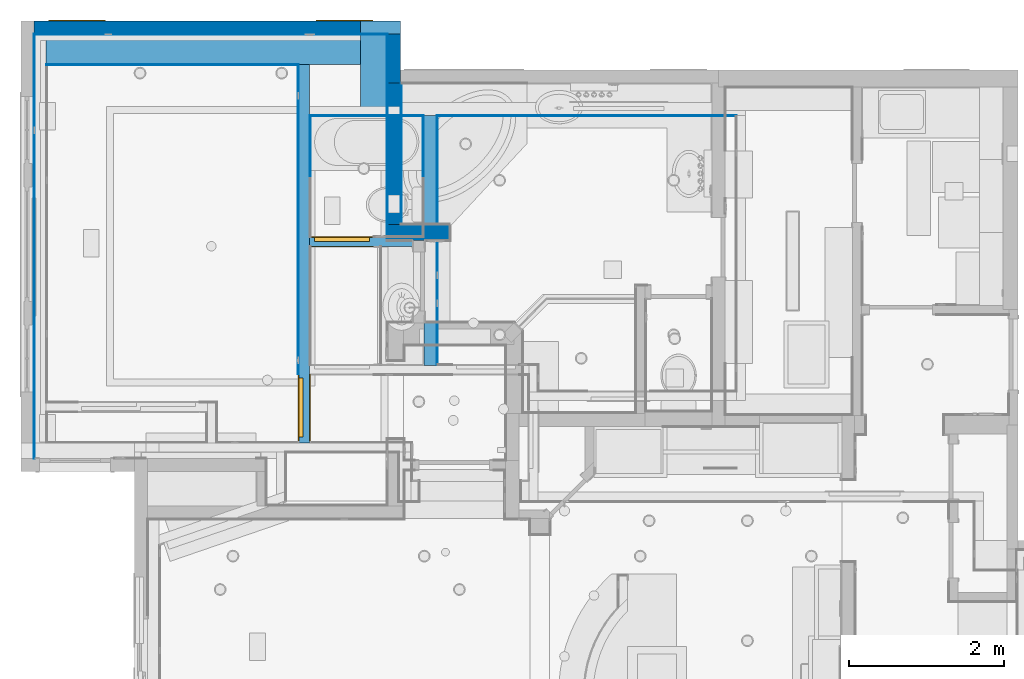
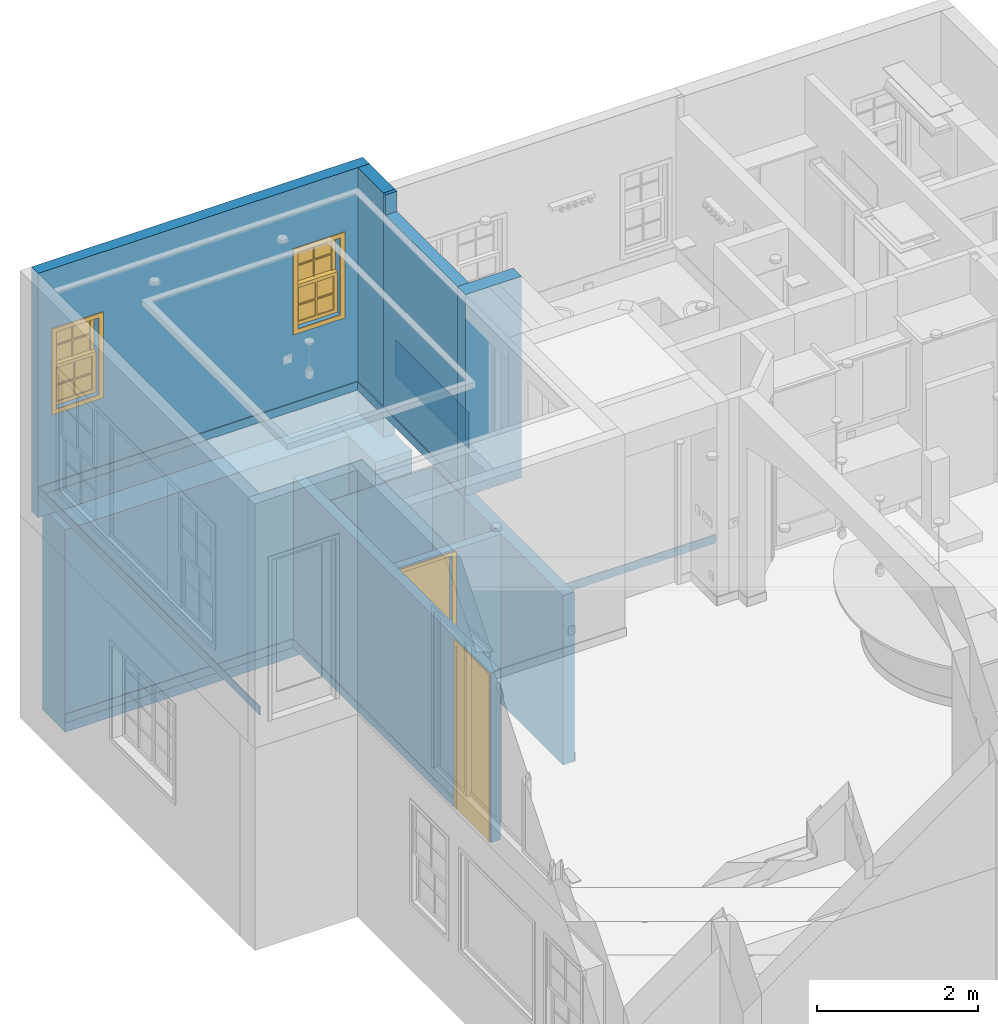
# One storey, part 11 of 81: 20 walls, 2 doors, 2 windows, 4 openings.
"""IFC2X3 building model written with IfcOpenShell, lengths in feet."""

from ifc_helpers import new_model, entity, si_unit, converted_unit, derived_unit, direction, frame, frame_2d, origin, origin_2d_with_axis, place, context, subcontext, project, spatial, polyline, rectangle, outline, extrude, clip, bounded_halfspace, source, transform, mapped, material, material_list, layer, layer_set, layer_usage, type_object, type_shapes, element, fill, save


model = new_model("IFC2X3")

# Units and contexts
model_context = context("Model", 3, precision=0.0001, world=origin(), true_north=direction((6.12303176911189e-17, 1.0)))
body_context = subcontext(model_context, "Body", "Model", "MODEL_VIEW")
ifc_project = project(units=[converted_unit("LENGTHUNIT", "FOOT", entity("IfcRatioMeasure", 0.3048), si_unit("LENGTHUNIT", "METRE"), dimensions=[1, 0, 0, 0, 0, 0, 0]), converted_unit("AREAUNIT", "SQUARE FOOT", entity("IfcRatioMeasure", 0.09290304), si_unit("AREAUNIT", "SQUARE_METRE"), dimensions=[2, 0, 0, 0, 0, 0, 0]), converted_unit("VOLUMEUNIT", "CUBIC FOOT", entity("IfcRatioMeasure", 0.028316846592), si_unit("VOLUMEUNIT", "CUBIC_METRE"), dimensions=[3, 0, 0, 0, 0, 0, 0]), converted_unit("PLANEANGLEUNIT", "DEGREE", entity("IfcRatioMeasure", 0.0174532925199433), si_unit("PLANEANGLEUNIT", "RADIAN"), dimensions=[0, 0, 0, 0, 0, 0, 0]), si_unit("MASSUNIT", "GRAM", prefix="KILO"), derived_unit("MASSDENSITYUNIT", [(si_unit("MASSUNIT", "GRAM", prefix="KILO"), 1), (si_unit("LENGTHUNIT", "METRE"), -3)]), derived_unit("MOMENTOFINERTIAUNIT", [(si_unit("LENGTHUNIT", "METRE"), 4)]), si_unit("TIMEUNIT", "SECOND"), si_unit("FREQUENCYUNIT", "HERTZ"), si_unit("THERMODYNAMICTEMPERATUREUNIT", "DEGREE_CELSIUS"), derived_unit("THERMALTRANSMITTANCEUNIT", [(si_unit("MASSUNIT", "GRAM", prefix="KILO"), 1), (si_unit("THERMODYNAMICTEMPERATUREUNIT", "KELVIN"), -1), (si_unit("TIMEUNIT", "SECOND"), -3)]), derived_unit("VOLUMETRICFLOWRATEUNIT", [(si_unit("LENGTHUNIT", "METRE"), 3), (si_unit("TIMEUNIT", "SECOND"), -1)]), si_unit("ELECTRICCURRENTUNIT", "AMPERE"), si_unit("ELECTRICVOLTAGEUNIT", "VOLT"), si_unit("POWERUNIT", "WATT"), si_unit("FORCEUNIT", "NEWTON"), si_unit("ILLUMINANCEUNIT", "LUX"), si_unit("LUMINOUSFLUXUNIT", "LUMEN"), si_unit("LUMINOUSINTENSITYUNIT", "CANDELA"), derived_unit("USERDEFINED", [(si_unit("MASSUNIT", "GRAM", prefix="KILO"), -1), (si_unit("LENGTHUNIT", "METRE"), -2), (si_unit("TIMEUNIT", "SECOND"), 3), (si_unit("LUMINOUSFLUXUNIT", "LUMEN"), 1)]), derived_unit("LINEARVELOCITYUNIT", [(si_unit("LENGTHUNIT", "METRE"), 1), (si_unit("TIMEUNIT", "SECOND"), -1)]), si_unit("PRESSUREUNIT", "PASCAL"), derived_unit("USERDEFINED", [(si_unit("LENGTHUNIT", "METRE"), -2), (si_unit("MASSUNIT", "GRAM", prefix="KILO"), 1), (si_unit("TIMEUNIT", "SECOND"), -2)]), derived_unit("LINEARFORCEUNIT", [(si_unit("MASSUNIT", "GRAM", prefix="KILO"), 1), (si_unit("LENGTHUNIT", "METRE"), 1), (si_unit("TIMEUNIT", "SECOND"), -2), (si_unit("LENGTHUNIT", "METRE"), -1)]), derived_unit("PLANARFORCEUNIT", [(si_unit("MASSUNIT", "GRAM", prefix="KILO"), 1), (si_unit("LENGTHUNIT", "METRE"), 1), (si_unit("TIMEUNIT", "SECOND"), -2), (si_unit("LENGTHUNIT", "METRE"), -2)])], contexts=[model_context])

# Site, building, storey
site_placement = place(None, origin())
site = spatial("IfcSite", under=ifc_project, at=site_placement, Name="Default", CompositionType="ELEMENT")
building_placement = place(site_placement, origin())
building = spatial("IfcBuilding", under=site, at=building_placement, CompositionType="ELEMENT")
storey_placement = place(building_placement, origin())
storey = spatial("IfcBuildingStorey", under=building, at=storey_placement, Name="First floor", CompositionType="ELEMENT", Elevation=0.0)

# Wall, openings, windows
ifc_material_1 = material(Name="Default New Material")
ifc_layer_1 = layer(ifc_material_1, 0.541666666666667)
ifc_layer_set_1 = layer_set([ifc_layer_1], Name="Basic Wall:Wall_6.5\"")
ifc_layer_usage_1 = layer_usage(ifc_layer_set_1, "AXIS2", "NEGATIVE", 0.270833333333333)
wall_type_1 = type_object("IfcWallType", Name="Basic Wall:Wall_6.5\"", PredefinedType="STANDARD", material=ifc_layer_set_1)
wall_1_placement = place(storey_placement, frame((-21.3125, 49.8541666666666, 9.54166666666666)))
wall_1 = element("IfcWallStandardCase", 1, at=wall_1_placement, inside=storey, type_object=wall_type_1, material=ifc_layer_usage_1, Name="Basic Wall:Wall_6.5\"", ObjectType="Basic Wall:Wall_6.5\"", context=body_context, shape_type="SweptSolid", body=[
    extrude(rectangle(XDim=15.5416666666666, YDim=0.541666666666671, at=frame_2d((7.77083333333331, 8.88178419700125e-16), x_axis=(-1.0, 0.0))), origin(), (0.0, 0.0, 1.0), 12.125),
])
opening_1_placement = place(wall_1_placement, frame((12.1666666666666, -0.270833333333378, 5.125)))
opening_1 = element("IfcOpeningElement", 2, at=opening_1_placement, cuts=wall_1, Name="Window_4:2'-0\" X 3'-10\":1", ObjectType="Opening", context=body_context, shape_type="SweptSolid", body=[
    extrude(rectangle(XDim=3.83333333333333, YDim=2.0, at=frame_2d((1.91666666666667, 0.999999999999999), x_axis=(-1.0, 0.0))), frame((0.0, 0.0, 0.0), z_axis=(0.0, 1.0, 0.0), x_axis=(0.0, 0.0, 1.0)), (0.0, 0.0, 1.0), 0.541666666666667),
])
opening_2_placement = place(wall_1_placement, frame((0.833333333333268, -0.270833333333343, 5.125)))
opening_2 = element("IfcOpeningElement", 3, at=opening_2_placement, cuts=wall_1, Name="Window_4:2'-0\" X 3'-10\":1", ObjectType="Opening", context=body_context, shape_type="SweptSolid", body=[
    extrude(rectangle(XDim=3.83333333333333, YDim=2.0, at=frame_2d((1.91666666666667, 1.0), x_axis=(-1.0, 0.0))), frame((0.0, 0.0, 0.0), z_axis=(0.0, 1.0, 0.0), x_axis=(0.0, 0.0, 1.0)), (0.0, 0.0, 1.0), 0.541666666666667),
])
ifc_material_2 = material(Name="Glass")
ifc_material_list_1 = material_list([ifc_material_2, ifc_material_1])
ifc_material_3 = material(Name="Trim")
ifc_material_4 = material(Name="Sash")
ifc_material_list_2 = material_list([ifc_material_3, ifc_material_3, ifc_material_2, ifc_material_4])
window_style = type_object("IfcWindowStyle", Name="Window_4:2'-0\" X 3'-10\"", ConstructionType="NOTDEFINED", OperationType="NOTDEFINED", ParameterTakesPrecedence=False, Sizeable=False, material=ifc_material_list_2)
shared_shape_1 = source(origin(), body_context, "Body", "SweptSolid", [
    extrude(rectangle(XDim=0.80859375, YDim=0.0435871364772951, at=origin_2d_with_axis()), frame((0.570963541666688, 0.459293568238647, 2.8515625)), (0.0, 0.0, 1.0), 0.815104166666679),
    extrude(rectangle(XDim=0.808593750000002, YDim=0.0435871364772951, at=frame_2d((5.55111512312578e-17, 0.0), x_axis=(1.0, 0.0))), frame((1.42903645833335, 0.459293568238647, 2.8515625)), (0.0, 0.0, 1.0), 0.815104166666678),
    extrude(rectangle(XDim=0.80859375, YDim=0.0435871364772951, at=origin_2d_with_axis()), frame((0.570963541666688, 0.459293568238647, 2.01041666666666)), (0.0, 0.0, 1.0), 0.791666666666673),
    extrude(rectangle(XDim=0.808593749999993, YDim=0.0435871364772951, at=origin_2d_with_axis()), frame((1.42903645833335, 0.459293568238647, 2.01041666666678)), (0.0, 0.0, 1.0), 0.791666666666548),
    extrude(outline(polyline([(-1.0, -0.994791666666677), (1.0, -0.994791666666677), (1.0, 0.994791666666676), (-1.0, 0.994791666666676), (-1.0, -0.994791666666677)]), holes=[polyline([(0.0247395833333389, -0.828125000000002), (0.0247395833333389, -0.0130208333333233), (0.833333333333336, -0.0130208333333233), (0.833333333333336, -0.828125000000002), (0.0247395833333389, -0.828125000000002)]), polyline([(0.0247395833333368, 0.828125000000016), (0.833333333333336, 0.828125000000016), (0.833333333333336, 0.0364583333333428), (0.0247395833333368, 0.0364583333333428), (0.0247395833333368, 0.828125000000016)]), polyline([(-0.833333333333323, -0.0130208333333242), (-0.0247395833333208, -0.0130208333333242), (-0.0247395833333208, -0.828125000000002), (-0.833333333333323, -0.828125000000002), (-0.833333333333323, -0.0130208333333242)]), polyline([(-0.833333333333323, 0.828124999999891), (-0.0247395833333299, 0.828124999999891), (-0.0247395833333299, 0.0364583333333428), (-0.833333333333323, 0.0364583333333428), (-0.833333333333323, 0.828124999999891)])]), frame((1.0, 0.541666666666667, 2.83854166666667), z_axis=(0.0, -1.0, 0.0), x_axis=(-1.0, 0.0, 0.0)), (0.0, 0.0, 1.0), 0.166666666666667),
    extrude(rectangle(XDim=0.808593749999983, YDim=0.0416666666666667, at=origin_2d_with_axis()), frame((1.42903645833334, 0.291666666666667, 0.166666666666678), z_axis=(0.0, 0.0, 1.0), x_axis=(-1.0, 0.0, 0.0)), (0.0, 0.0, 1.0), 0.791666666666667),
    extrude(rectangle(XDim=0.80859374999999, YDim=0.0416666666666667, at=origin_2d_with_axis()), frame((0.570963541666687, 0.291666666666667, 1.00781250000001), z_axis=(0.0, 0.0, 1.0), x_axis=(-1.0, 0.0, 0.0)), (0.0, 0.0, 1.0), 0.835937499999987),
    extrude(rectangle(XDim=0.80859374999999, YDim=0.0416666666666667, at=origin_2d_with_axis()), frame((0.570963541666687, 0.291666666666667, 0.166666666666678), z_axis=(0.0, 0.0, 1.0), x_axis=(-1.0, 0.0, 0.0)), (0.0, 0.0, 1.0), 0.791666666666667),
    extrude(rectangle(XDim=0.808593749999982, YDim=0.0416666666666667, at=origin_2d_with_axis()), frame((1.42903645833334, 0.291666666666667, 1.00781250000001), z_axis=(0.0, 0.0, 1.0), x_axis=(-1.0, 0.0, 0.0)), (0.0, 0.0, 1.0), 0.835937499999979),
    extrude(outline(polyline([(-1.0, -1.00520833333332), (1.0, -1.00520833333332), (1.0, 1.00520833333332), (-1.0, 1.00520833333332), (-1.0, -1.00520833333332)]), holes=[polyline([(-0.833333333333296, -0.0026041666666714), (-0.0247395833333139, -0.0026041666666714), (-0.0247395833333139, -0.83854166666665), (-0.833333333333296, -0.83854166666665), (-0.833333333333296, -0.0026041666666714)]), polyline([(0.0247395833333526, 0.838541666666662), (0.833333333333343, 0.838541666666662), (0.833333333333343, 0.0468749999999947), (0.0247395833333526, 0.0468749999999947), (0.0247395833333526, 0.838541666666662)]), polyline([(-0.833333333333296, 0.838541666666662), (-0.0247395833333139, 0.838541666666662), (-0.0247395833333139, 0.0468749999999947), (-0.833333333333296, 0.0468749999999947), (-0.833333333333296, 0.838541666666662)]), polyline([(0.0247395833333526, -0.83854166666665), (0.0247395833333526, -0.00260416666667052), (0.833333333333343, -0.00260416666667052), (0.833333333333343, -0.83854166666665), (0.0247395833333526, -0.83854166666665)])]), frame((1.0, 0.375, 1.00520833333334), z_axis=(0.0, -1.0, 0.0), x_axis=(-1.0, 0.0, 0.0)), (0.0, 0.0, 1.0), 0.166666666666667),
    extrude(outline(polyline([(-1.20833333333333, -2.12500000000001), (1.20833333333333, -2.12500000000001), (1.20833333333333, 2.12500000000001), (-1.20833333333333, 2.12500000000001), (-1.20833333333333, -2.12500000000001)]), holes=[polyline([(-1.0, -1.91666666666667), (-1.0, 1.91666666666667), (1.0, 1.91666666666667), (1.0, -1.91666666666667), (-1.0, -1.91666666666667)])]), frame((1.0, 0.0, 1.91666666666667), z_axis=(0.0, -1.0, 0.0), x_axis=(1.0, 0.0, 0.0)), (0.0, 0.0, 1.0), 0.0416666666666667),
    extrude(outline(polyline([(-1.20833333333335, -2.125), (1.20833333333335, -2.125), (1.20833333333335, 2.125), (-1.20833333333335, 2.125), (-1.20833333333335, -2.125)]), holes=[polyline([(-1.0, -1.91666666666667), (-1.0, 1.91666666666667), (1.0, 1.91666666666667), (1.0, -1.91666666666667), (-1.0, -1.91666666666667)])]), frame((1.0, 0.583333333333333, 1.91666666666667), z_axis=(0.0, -1.0, 0.0), x_axis=(1.0, 0.0, 0.0)), (0.0, 0.0, 1.0), 0.0416666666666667),
])
type_shapes(window_style, [shared_shape_1])
window_1_placement = place(opening_1_placement, origin())
window_1 = element("IfcWindow", 4, at=window_1_placement, inside=storey, type_object=window_style, material=ifc_material_list_1, Name="Window_4:2'-0\" X 3'-10\"", ObjectType="Window_4:2'-0\" X 3'-10\"", OverallHeight=3.83333333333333, OverallWidth=2.0, context=body_context, shape_type="MappedRepresentation", body=[
    mapped(shared_shape_1, transform((0.0, 0.0, 0.0), scale=1.0)),
])
fill(opening_1, window_1)
ifc_material_list_3 = material_list([ifc_material_2, ifc_material_1])
window_2_placement = place(opening_2_placement, origin())
window_2 = element("IfcWindow", 5, at=window_2_placement, inside=storey, type_object=window_style, material=ifc_material_list_3, Name="Window_4:2'-0\" X 3'-10\"", ObjectType="Window_4:2'-0\" X 3'-10\"", OverallHeight=3.83333333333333, OverallWidth=2.0, context=body_context, shape_type="MappedRepresentation", body=[
    mapped(shared_shape_1, transform((0.0, 0.0, 0.0), scale=1.0)),
])
fill(opening_2, window_2)

# Walls
ifc_layer_usage_2 = layer_usage(ifc_layer_set_1, "AXIS2", "NEGATIVE", 0.270833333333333)
wall_2_placement = place(storey_placement, frame((-6.04166666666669, 49.5833333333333, 9.54166666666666), z_axis=(0.0, 0.0, 1.0), x_axis=(0.0, -1.0, 0.0)))
element("IfcWallStandardCase", 6, at=wall_2_placement, inside=storey, type_object=wall_type_1, material=ifc_layer_usage_2, Name="Basic Wall:Wall_6.5\"", ObjectType="Basic Wall:Wall_6.5\"", context=body_context, shape_type="SweptSolid", body=[
    extrude(rectangle(XDim=2.08367849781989, YDim=0.541666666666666, at=frame_2d((1.04183924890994, 0.0), x_axis=(-1.0, 0.0))), origin(), (0.0, 0.0, 1.0), 12.125),
])
ifc_layer_usage_3 = layer_usage(ifc_layer_set_1, "AXIS2", "POSITIVE", -0.270833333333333)
wall_3_placement = place(storey_placement, frame((-6.04166666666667, 41.4996548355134, 10.6666666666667), z_axis=(0.0, 0.0, 1.0), x_axis=(0.0, 1.0, 0.0)))
element("IfcWallStandardCase", 7, at=wall_3_placement, inside=storey, type_object=wall_type_1, material=ifc_layer_usage_3, Name="Basic Wall:Wall_6.5\"", ObjectType="Basic Wall:Wall_6.5\"", context=body_context, shape_type="Clipping", body=[
    clip(clip(extrude(rectangle(XDim=6.00000000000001, YDim=0.541666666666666, at=frame_2d((3.0, 0.0), x_axis=(-1.0, 0.0))), origin(), (0.0, 0.0, 1.0), 11.0), bounded_halfspace(frame((5.83333333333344, -0.270833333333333, 10.0), z_axis=(0.0, 0.0, -1.0), x_axis=(0.0, -1.0, 0.0)), True, frame((5.83333333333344, -0.270833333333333, 10.0), z_axis=(0.0, 0.0, -1.0), x_axis=(0.0, -1.0, 0.0)), polyline([(0.0, 0.0), (0.0, 5.83333333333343), (-0.541666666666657, 5.83333333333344), (-0.541666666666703, 0.0), (0.0, 0.0)]))), bounded_halfspace(frame((5.83333333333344, 0.27083333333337, 10.0), z_axis=(1.0, 0.0, 0.0), x_axis=(0.0, 0.0, -1.0)), True, frame((5.83333333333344, 0.27083333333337, 10.0), z_axis=(1.0, 0.0, 0.0), x_axis=(0.0, 0.0, -1.0)), polyline([(0.0, 0.0), (-1.0, 0.0), (-1.0, -0.541666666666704), (0.0, -0.541666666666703), (0.0, 0.0)]))),
])
ifc_layer_usage_4 = layer_usage(ifc_layer_set_1, "AXIS2", "POSITIVE", -0.270833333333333)
wall_4_placement = place(storey_placement, frame((-4.52083333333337, 35.5416666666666, 0.0), z_axis=(0.0, 0.0, 1.0), x_axis=(0.0, 1.0, 0.0)))
element("IfcWallStandardCase", 8, at=wall_4_placement, inside=storey, type_object=wall_type_1, material=ifc_layer_usage_4, Name="Basic Wall:Wall_6.5\"", ObjectType="Basic Wall:Wall_6.5\"", context=body_context, shape_type="SweptSolid", body=[
    extrude(rectangle(XDim=10.5833333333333, YDim=0.541666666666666, at=frame_2d((5.29166666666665, 0.0), x_axis=(-1.0, 0.0))), origin(), (0.0, 0.0, 1.0), 8.41666666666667),
])
ifc_layer_2 = layer(ifc_material_1, 0.666666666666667)
ifc_layer_set_2 = layer_set([ifc_layer_2], Name="Basic Wall:Wall_8\"")
ifc_layer_usage_5 = layer_usage(ifc_layer_set_2, "AXIS2", "POSITIVE", -0.333333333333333)
wall_type_2 = type_object("IfcWallType", Name="Basic Wall:Wall_8\"", PredefinedType="STANDARD", material=ifc_layer_set_2)
wall_5_placement = place(storey_placement, frame((-3.6875, 41.16632150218, 10.6666666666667), z_axis=(0.0, 0.0, 1.0), x_axis=(-1.0, 0.0, 0.0)))
element("IfcWallStandardCase", 9, at=wall_5_placement, inside=storey, type_object=wall_type_2, material=ifc_layer_usage_5, Name="Basic Wall:Wall_8\"", ObjectType="Basic Wall:Wall_8\"", context=body_context, shape_type="SweptSolid", body=[
    extrude(rectangle(XDim=2.62500000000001, YDim=0.666666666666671, at=frame_2d((1.3125, 0.0), x_axis=(-1.0, 0.0))), origin(), (0.0, 0.0, 1.0), 10.0),
])

# Wall, opening, door
ifc_layer_3 = layer(ifc_material_1, 0.375)
ifc_layer_set_3 = layer_set([ifc_layer_3], Name="Basic Wall:Wall_4.5\"")
ifc_layer_usage_6 = layer_usage(ifc_layer_set_3, "AXIS2", "POSITIVE", -0.1875)
wall_type_3 = type_object("IfcWallType", Name="Basic Wall:Wall_4.5\"", PredefinedType="STANDARD", material=ifc_layer_set_3)
wall_6_placement = place(storey_placement, frame((-4.79166666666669, 40.7708333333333, 0.0), z_axis=(0.0, 0.0, 1.0), x_axis=(-1.0, 0.0, 0.0)))
wall_6 = element("IfcWallStandardCase", 10, at=wall_6_placement, inside=storey, type_object=wall_type_3, material=ifc_layer_usage_6, Name="Basic Wall:Wall_4.5\"", ObjectType="Basic Wall:Wall_4.5\"", context=body_context, shape_type="SweptSolid", body=[
    extrude(rectangle(XDim=4.83333333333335, YDim=0.375, at=frame_2d((2.41666666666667, 0.0), x_axis=(-1.0, 0.0))), origin(), (0.0, 0.0, 1.0), 8.41666666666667),
])
opening_3_placement = place(wall_6_placement, frame((4.62499999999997, 0.187499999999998, 0.0)))
opening_3 = element("IfcOpeningElement", 11, at=opening_3_placement, cuts=wall_6, Name="Door_1:2'-4\" X 8'-2\":1", ObjectType="Opening", context=body_context, shape_type="SweptSolid", body=[
    extrude(rectangle(XDim=2.33333333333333, YDim=8.16666666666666, at=frame_2d((4.08333333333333, 1.16666666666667), x_axis=(0.0, -1.0))), frame((0.0, 0.0, 0.0), z_axis=(0.0, -1.0, 0.0), x_axis=(0.0, 0.0, 1.0)), (0.0, 0.0, 1.0), 0.375),
])
ifc_material_list_4 = material_list([ifc_material_1, ifc_material_1])
door_style_1 = type_object("IfcDoorStyle", Name="Door_1:2'-4\" X 8'-2\"", ConstructionType="NOTDEFINED", OperationType="SINGLE_SWING_LEFT", ParameterTakesPrecedence=False, Sizeable=False, material=ifc_material_list_4)
shared_shape_2 = source(origin(), body_context, "Body", "SweptSolid", [
    extrude(outline(polyline([(-1.33333333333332, -4.20833333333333), (1.3333333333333, -4.20833333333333), (1.3333333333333, 4.125), (1.16666666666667, 4.125), (1.16666666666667, -4.04166666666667), (-1.16666666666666, -4.04166666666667), (-1.16666666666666, 4.125), (-1.33333333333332, 4.125), (-1.33333333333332, -4.20833333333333)])), frame((1.16666666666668, 0.416666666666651, 4.125), z_axis=(0.0, -1.0, 0.0), x_axis=(-1.0, 0.0, 0.0)), (0.0, 0.0, 1.0), 0.0416666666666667),
    extrude(outline(polyline([(-4.20833333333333, -1.33333333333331), (4.125, -1.33333333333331), (4.125, -1.16666666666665), (-4.04166666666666, -1.16666666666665), (-4.04166666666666, 1.16666666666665), (4.125, 1.16666666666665), (4.125, 1.33333333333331), (-4.20833333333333, 1.33333333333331), (-4.20833333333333, -1.33333333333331)])), frame((1.16666666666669, 0.0, 4.125), z_axis=(0.0, -1.0, 0.0), x_axis=(0.0, 0.0, -1.0)), (0.0, 0.0, 1.0), 0.0416666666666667),
    extrude(rectangle(XDim=2.33333333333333, YDim=0.166666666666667, at=origin_2d_with_axis()), frame((1.16666666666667, 0.291666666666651, 0.0)), (0.0, 0.0, 1.0), 8.16666666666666),
])
type_shapes(door_style_1, [shared_shape_2])
door_1_placement = place(opening_3_placement, frame((0.0, 0.0, 0.0), z_axis=(0.0, 0.0, 1.0), x_axis=(-1.0, 0.0, 0.0)))
door_1 = element("IfcDoor", 12, at=door_1_placement, inside=storey, type_object=door_style_1, material=ifc_material_1, Name="Door_1:2'-4\" X 8'-2\"", ObjectType="Door_1:2'-4\" X 8'-2\"", OverallHeight=8.16666666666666, OverallWidth=2.33333333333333, context=body_context, shape_type="MappedRepresentation", body=[
    mapped(shared_shape_2, transform((0.0, 0.0, 0.0), scale=1.0)),
])
fill(opening_3, door_1)

ifc_layer_4 = layer(ifc_material_1, 0.458333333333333)
ifc_layer_set_4 = layer_set([ifc_layer_4], Name="Basic Wall:Wall_5.5\"")
ifc_layer_usage_7 = layer_usage(ifc_layer_set_4, "AXIS2", "NEGATIVE", 0.229166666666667)
wall_type_4 = type_object("IfcWallType", Name="Basic Wall:Wall_5.5\"", PredefinedType="STANDARD", material=ifc_layer_set_4)
wall_7_placement = place(storey_placement, frame((-9.8541666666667, 48.2916666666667, 0.0), z_axis=(0.0, 0.0, 1.0), x_axis=(0.0, -1.0, 0.0)))
wall_7 = element("IfcWallStandardCase", 13, at=wall_7_placement, inside=storey, type_object=wall_type_4, material=ifc_layer_usage_7, Name="Basic Wall:Wall_5.5\"", ObjectType="Basic Wall:Wall_5.5\"", context=body_context, shape_type="SweptSolid", body=[
    extrude(rectangle(XDim=16.0416666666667, YDim=0.458333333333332, at=frame_2d((8.02083333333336, -9.71445146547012e-17), x_axis=(-1.0, 0.0))), origin(), (0.0, 0.0, 1.0), 8.41666666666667),
])
opening_4_placement = place(wall_7_placement, frame((15.7916666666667, 0.229166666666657, 0.0)))
opening_4 = element("IfcOpeningElement", 14, at=opening_4_placement, cuts=wall_7, Name="Door_1:2'-6\" X 8'-2\":1", ObjectType="Opening", context=body_context, shape_type="SweptSolid", body=[
    extrude(rectangle(XDim=2.5, YDim=8.16666666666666, at=frame_2d((4.08333333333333, 1.25), x_axis=(0.0, -1.0))), frame((0.0, 0.0, 0.0), z_axis=(0.0, -1.0, 0.0), x_axis=(0.0, 0.0, 1.0)), (0.0, 0.0, 1.0), 0.458333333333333),
])
ifc_material_list_5 = material_list([ifc_material_1, ifc_material_1])
door_style_2 = type_object("IfcDoorStyle", Name="Door_1:2'-6\" X 8'-2\"", ConstructionType="NOTDEFINED", OperationType="SINGLE_SWING_LEFT", ParameterTakesPrecedence=False, Sizeable=False, material=ifc_material_list_5)
shared_shape_3 = source(origin(), body_context, "Body", "SweptSolid", [
    extrude(outline(polyline([(-1.41666666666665, -4.20833333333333), (1.41666666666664, -4.20833333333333), (1.41666666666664, 4.125), (1.25000000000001, 4.125), (1.25000000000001, -4.04166666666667), (-1.24999999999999, -4.04166666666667), (-1.24999999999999, 4.125), (-1.41666666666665, 4.125), (-1.41666666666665, -4.20833333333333)])), frame((1.25000000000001, 0.499999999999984, 4.125), z_axis=(0.0, -1.0, 0.0), x_axis=(-1.0, 0.0, 0.0)), (0.0, 0.0, 1.0), 0.0416666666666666),
    extrude(outline(polyline([(-4.20833333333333, -1.41666666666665), (4.125, -1.41666666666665), (4.125, -1.24999999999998), (-4.04166666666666, -1.24999999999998), (-4.04166666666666, 1.24999999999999), (4.125, 1.24999999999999), (4.125, 1.41666666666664), (-4.20833333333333, 1.41666666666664), (-4.20833333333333, -1.41666666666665)])), frame((1.25000000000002, 0.0, 4.125), z_axis=(0.0, -1.0, 0.0), x_axis=(0.0, 0.0, -1.0)), (0.0, 0.0, 1.0), 0.0416666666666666),
    extrude(rectangle(XDim=2.5, YDim=0.166666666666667, at=origin_2d_with_axis()), frame((1.25, 0.374999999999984, 0.0)), (0.0, 0.0, 1.0), 8.16666666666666),
])
type_shapes(door_style_2, [shared_shape_3])
door_2_placement = place(opening_4_placement, frame((0.0, 0.0, 0.0), z_axis=(0.0, 0.0, 1.0), x_axis=(-1.0, 0.0, 0.0)))
door_2 = element("IfcDoor", 15, at=door_2_placement, inside=storey, type_object=door_style_2, material=ifc_material_1, Name="Door_1:2'-6\" X 8'-2\"", ObjectType="Door_1:2'-6\" X 8'-2\"", OverallHeight=8.16666666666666, OverallWidth=2.5, context=body_context, shape_type="MappedRepresentation", body=[
    mapped(shared_shape_3, transform((0.0, 0.0, 0.0), scale=1.0)),
])
fill(opening_4, door_2)

# Walls
ifc_layer_5 = layer(ifc_material_1, 1.83333333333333)
ifc_layer_set_5 = layer_set([ifc_layer_5], Name="Basic Wall:Wall_1' 10\"")
ifc_layer_usage_8 = layer_usage(ifc_layer_set_5, "AXIS2", "POSITIVE", -0.916666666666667)
wall_type_5 = type_object("IfcWallType", Name="Basic Wall:Wall_1' 10\"", PredefinedType="STANDARD", material=ifc_layer_set_5)
wall_8_placement = place(storey_placement, frame((-7.47916666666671, 49.2083333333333, -0.5), z_axis=(0.0, 0.0, 1.0), x_axis=(-1.0, 0.0, 0.0)))
element("IfcWallStandardCase", 16, at=wall_8_placement, inside=storey, type_object=wall_type_5, material=ifc_layer_usage_8, Name="Basic Wall:Wall_1' 10\"", ObjectType="Basic Wall:Wall_1' 10\"", context=body_context, shape_type="SweptSolid", body=[
    extrude(rectangle(XDim=13.3125, YDim=1.83333333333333, at=frame_2d((6.65624999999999, 0.0), x_axis=(-1.0, 0.0))), origin(), (0.0, 0.0, 1.0), 10.0416666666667),
])
ifc_layer_6 = layer(ifc_material_1, 1.70833333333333)
ifc_layer_set_6 = layer_set([ifc_layer_6], Name="Basic Wall:Wall_1' 8 1/2\"")
ifc_layer_usage_9 = layer_usage(ifc_layer_set_6, "AXIS2", "NEGATIVE", 0.854166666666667)
wall_type_6 = type_object("IfcWallType", Name="Basic Wall:Wall_1' 8 1/2\"", PredefinedType="STANDARD", material=ifc_layer_set_6)
wall_9_placement = place(storey_placement, frame((-6.62500000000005, 50.125, -0.5), z_axis=(0.0, 0.0, 1.0), x_axis=(0.0, -1.0, 0.0)))
element("IfcWallStandardCase", 17, at=wall_9_placement, inside=storey, type_object=wall_type_6, material=ifc_layer_usage_9, Name="Basic Wall:Wall_1' 8 1/2\"", ObjectType="Basic Wall:Wall_1' 8 1/2\"", context=body_context, shape_type="SweptSolid", body=[
    extrude(rectangle(XDim=4.00000000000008, YDim=1.70833333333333, at=frame_2d((2.00000000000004, -3.33066907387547e-16), x_axis=(-1.0, 0.0))), origin(), (0.0, 0.0, 1.0), 10.0416666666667),
])
ifc_layer_7 = layer(ifc_material_1, 0.0416666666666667)
ifc_layer_set_7 = layer_set([ifc_layer_7], Name="Basic Wall:Wall Border_T1")
ifc_layer_usage_10 = layer_usage(ifc_layer_set_7, "AXIS2", "NEGATIVE", 0.0208333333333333)
wall_type_7 = type_object("IfcWallType", Name="Basic Wall:Wall Border_T1", PredefinedType="STANDARD", material=ifc_layer_set_7)
wall_10_placement = place(storey_placement, frame((-10.125, 48.2708333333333, 0.0), z_axis=(0.0, 0.0, 1.0), x_axis=(-1.0, 0.0, 0.0)))
element("IfcWallStandardCase", 18, at=wall_10_placement, inside=storey, type_object=wall_type_7, material=ifc_layer_usage_10, Name="Basic Wall:Wall Border_T1", ObjectType="Basic Wall:Wall Border_T1", context=body_context, shape_type="SweptSolid", body=[
    extrude(rectangle(XDim=10.6666666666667, YDim=0.0416666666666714, at=frame_2d((5.33333333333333, -6.93889390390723e-17), x_axis=(-1.0, 0.0))), origin(), (0.0, 0.0, 1.0), 0.416666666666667),
])
ifc_layer_usage_11 = layer_usage(ifc_layer_set_7, "AXIS2", "POSITIVE", -0.0208333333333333)
wall_11_placement = place(storey_placement, frame((-10.1041666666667, 48.2916666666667, 0.0), z_axis=(0.0, 0.0, 1.0), x_axis=(0.0, -1.0, 0.0)))
element("IfcWallStandardCase", 19, at=wall_11_placement, inside=storey, type_object=wall_type_7, material=ifc_layer_usage_11, Name="Basic Wall:Wall Border_T1", ObjectType="Basic Wall:Wall Border_T1", context=body_context, shape_type="SweptSolid", body=[
    extrude(rectangle(XDim=13.125, YDim=0.0416666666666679, at=frame_2d((6.56250000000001, 0.0), x_axis=(-1.0, 0.0))), origin(), (0.0, 0.0, 1.0), 0.416666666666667),
])
ifc_layer_usage_12 = layer_usage(ifc_layer_set_7, "AXIS2", "POSITIVE", -0.0208333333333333)
wall_12_placement = place(storey_placement, frame((-4.20833333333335, 46.1041666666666, 0.0)))
element("IfcWallStandardCase", 20, at=wall_12_placement, inside=storey, type_object=wall_type_7, material=ifc_layer_usage_12, Name="Basic Wall:Wall Border_T1", ObjectType="Basic Wall:Wall Border_T1", context=body_context, shape_type="Clipping", body=[
    clip(extrude(rectangle(XDim=12.6666666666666, YDim=0.0416666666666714, at=frame_2d((6.33333333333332, -6.93889390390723e-17), x_axis=(-1.0, 0.0))), origin(), (0.0, 0.0, 1.0), 0.416666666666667), bounded_halfspace(frame((0.0, -0.0208333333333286, 0.0), z_axis=(1.0, 0.0, 0.0), x_axis=(0.0, 1.0, 0.0)), True, frame((0.0, -0.0208333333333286, 0.0), z_axis=(1.0, 0.0, 0.0), x_axis=(0.0, 1.0, 0.0)), polyline([(0.0, 0.0), (0.0416666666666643, 0.0), (0.0416666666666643, 0.416666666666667), (0.0, 0.416666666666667), (0.0, 0.0)]))),
])
ifc_layer_usage_13 = layer_usage(ifc_layer_set_7, "AXIS2", "POSITIVE", -0.0208333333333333)
wall_13_placement = place(storey_placement, frame((-4.2291666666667, 35.5416666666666, 0.0), z_axis=(0.0, 0.0, 1.0), x_axis=(0.0, 1.0, 0.0)))
element("IfcWallStandardCase", 21, at=wall_13_placement, inside=storey, type_object=wall_type_7, material=ifc_layer_usage_13, Name="Basic Wall:Wall Border_T1", ObjectType="Basic Wall:Wall Border_T1", context=body_context, shape_type="SweptSolid", body=[
    extrude(rectangle(XDim=10.5833333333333, YDim=0.0416666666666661, at=frame_2d((5.29166666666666, 0.0), x_axis=(-1.0, 0.0))), origin(), (0.0, 0.0, 1.0), 0.416666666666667),
])
ifc_layer_usage_14 = layer_usage(ifc_layer_set_7, "AXIS2", "NEGATIVE", 0.0208333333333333)
wall_14_placement = place(storey_placement, frame((-4.81250000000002, 43.5416666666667, 0.0), z_axis=(0.0, 0.0, 1.0), x_axis=(0.0, 1.0, 0.0)))
element("IfcWallStandardCase", 22, at=wall_14_placement, inside=storey, type_object=wall_type_7, material=ifc_layer_usage_14, Name="Basic Wall:Wall Border_T1", ObjectType="Basic Wall:Wall Border_T1", context=body_context, shape_type="SweptSolid", body=[
    extrude(rectangle(XDim=2.58333333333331, YDim=0.0416666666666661, at=frame_2d((1.29166666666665, 1.04083408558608e-17), x_axis=(-1.0, 0.0))), origin(), (0.0, 0.0, 1.0), 8.41666666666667),
])
ifc_layer_usage_15 = layer_usage(ifc_layer_set_7, "AXIS2", "NEGATIVE", 0.0208333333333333)
wall_15_placement = place(storey_placement, frame((-4.83333333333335, 46.1041666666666, 0.0), z_axis=(0.0, 0.0, 1.0), x_axis=(-1.0, 0.0, 0.0)))
element("IfcWallStandardCase", 23, at=wall_15_placement, inside=storey, type_object=wall_type_7, material=ifc_layer_usage_15, Name="Basic Wall:Wall Border_T1", ObjectType="Basic Wall:Wall Border_T1", context=body_context, shape_type="SweptSolid", body=[
    extrude(rectangle(XDim=4.79166666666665, YDim=0.0416666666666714, at=frame_2d((2.39583333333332, -2.66800470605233e-15), x_axis=(-1.0, 0.0))), origin(), (0.0, 0.0, 1.0), 8.41666666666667),
])
ifc_layer_usage_16 = layer_usage(ifc_layer_set_7, "AXIS2", "NEGATIVE", 0.0208333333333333)
wall_16_placement = place(storey_placement, frame((-9.60416666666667, 46.0833333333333, 0.0), z_axis=(0.0, 0.0, 1.0), x_axis=(0.0, -1.0, 0.0)))
element("IfcWallStandardCase", 24, at=wall_16_placement, inside=storey, type_object=wall_type_7, material=ifc_layer_usage_16, Name="Basic Wall:Wall Border_T1", ObjectType="Basic Wall:Wall Border_T1", context=body_context, shape_type="SweptSolid", body=[
    extrude(rectangle(XDim=2.54166666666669, YDim=0.0416666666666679, at=frame_2d((1.27083333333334, 2.08166817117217e-17), x_axis=(-1.0, 0.0))), origin(), (0.0, 0.0, 1.0), 8.41666666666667),
])
ifc_layer_usage_17 = layer_usage(ifc_layer_set_7, "AXIS2", "NEGATIVE", 0.0208333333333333)
wall_17_placement = place(storey_placement, frame((-6.33333333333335, 40.8329881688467, 10.6666666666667), z_axis=(0.0, 0.0, 1.0), x_axis=(0.0, 1.0, 0.0)))
element("IfcWallStandardCase", 25, at=wall_17_placement, inside=storey, type_object=wall_type_7, material=ifc_layer_usage_17, Name="Basic Wall:Wall Border_T1", ObjectType="Basic Wall:Wall Border_T1", context=body_context, shape_type="SweptSolid", body=[
    extrude(rectangle(XDim=8.75034516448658, YDim=0.0416666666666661, at=frame_2d((4.37517258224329, -9.54097911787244e-17), x_axis=(-1.0, 0.0))), origin(), (0.0, 0.0, 1.0), 0.416666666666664),
])
ifc_layer_usage_18 = layer_usage(ifc_layer_set_7, "AXIS2", "NEGATIVE", 0.0208333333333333)
wall_18_placement = place(storey_placement, frame((-6.35416666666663, 49.5624999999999, 10.6666666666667), z_axis=(0.0, 0.0, 1.0), x_axis=(-1.0, 0.0, 0.0)))
element("IfcWallStandardCase", 26, at=wall_18_placement, inside=storey, type_object=wall_type_7, material=ifc_layer_usage_18, Name="Basic Wall:Wall Border_T1", ObjectType="Basic Wall:Wall Border_T1", context=body_context, shape_type="SweptSolid", body=[
    extrude(rectangle(XDim=14.9583333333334, YDim=0.0416666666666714, at=frame_2d((7.47916666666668, 4.77048955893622e-16), x_axis=(-1.0, 0.0))), origin(), (0.0, 0.0, 1.0), 0.416666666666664),
])
ifc_layer_usage_19 = layer_usage(ifc_layer_set_7, "AXIS2", "NEGATIVE", 0.0208333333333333)
wall_19_placement = place(storey_placement, frame((-21.2916666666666, 49.5416666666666, 10.6666666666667), z_axis=(0.0, 0.0, 1.0), x_axis=(0.0, -1.0, 0.0)))
element("IfcWallStandardCase", 27, at=wall_19_placement, inside=storey, type_object=wall_type_7, material=ifc_layer_usage_19, Name="Basic Wall:Wall Border_T1", ObjectType="Basic Wall:Wall Border_T1", context=body_context, shape_type="SweptSolid", body=[
    extrude(rectangle(XDim=17.9583333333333, YDim=0.0416666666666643, at=frame_2d((8.97916666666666, 0.0), x_axis=(-1.0, 0.0))), origin(), (0.0, 0.0, 1.0), 0.416666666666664),
])
ifc_layer_usage_20 = layer_usage(ifc_layer_set_7, "AXIS2", "NEGATIVE", 0.0208333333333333)
wall_20_placement = place(storey_placement, frame((-5.75, 41.54132150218, 12.4166666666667), z_axis=(0.0, 0.0, 1.0), x_axis=(0.0, 1.0, 0.0)))
element("IfcWallStandardCase", 28, at=wall_20_placement, inside=storey, type_object=wall_type_7, material=ifc_layer_usage_20, Name="Basic Wall:Wall Border_T1", ObjectType="Basic Wall:Wall Border_T1", context=body_context, shape_type="SweptSolid", body=[
    extrude(rectangle(XDim=5.95833333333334, YDim=0.0416666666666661, at=frame_2d((2.97916666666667, 1.17961196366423e-16), x_axis=(-1.0, 0.0))), origin(), (0.0, 0.0, 1.0), 1.79166666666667),
])

save(model, "model.ifc")
